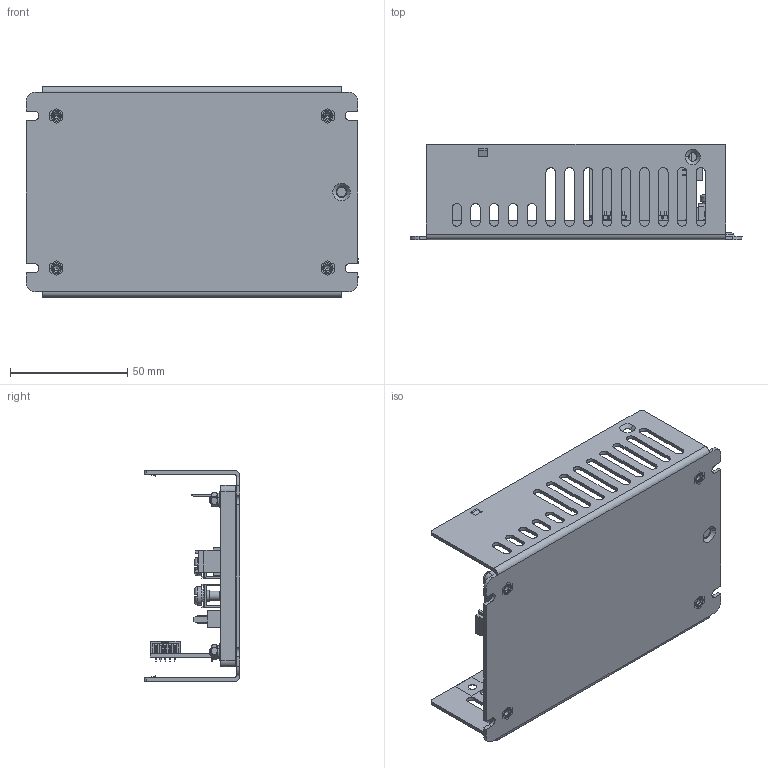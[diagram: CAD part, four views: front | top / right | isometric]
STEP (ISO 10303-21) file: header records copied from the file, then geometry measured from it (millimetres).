
FILE_DESCRIPTION (( 'STEP AP214' ), '1' );
FILE_NAME ('CUS-400M-xxVx-UXy.STEP', '2020-04-16T06:55:53', ( '' ), ( '' ), 'SwSTEP 2.0', 'SolidWorks 2019', '' );
FILE_SCHEMA (( 'AUTOMOTIVE_DESIGN' ));
Length unit declared in the file: millimetre
Products named in the file (28): 283717; 250237_28421; 23578; 200218; SPLIT WASHERS_20035R; 200268; 250236; 12947; 250223; 250297; FULL NUT_200499; 240204; 22-04-1021; M4 X PH COMBI SEMS SCREW_200020; 220563SMA_SM Removed; 220665SMA_No Surface Mount; CUS-400M-xxVx-UXy; 283448; 220563_No Holes; 250242 slot masking; 220563_Connectors Only; 283447; 220665_No Holes; FLAT WASHERS_32087; 250294 chassis masking; 220665_Connectors Only
Assembly tree (46 placements, depth 5):
  CUS-400M-xxVx-UXy
    220665_Connectors Only
      220665SMA_No Surface Mount
        220665_No Holes
      200218
      23578
      283717
        250223
        M4 X PH COMBI SEMS SCREW_200020
      283717
        250223
        M4 X PH COMBI SEMS SCREW_200020
      220563_Connectors Only
        220563SMA_SM Removed
          220563_No Holes
        12947
        283448
        283447
      200268
      22-04-1021
    240204
    250297
      250297
      250237_28421  x4
      250242 slot masking  x2
      250294 chassis masking  x2
    250236  x4
    FLAT WASHERS_32087  x4
    SPLIT WASHERS_20035R  x4
    FULL NUT_200499  x4
Bounding box: 141.4 x 40.7 x 89.8 mm (x, y, z)
Volume: 65628.8 mm3; surface area: 100688.2 mm2
Topology: 43 solids, 43 shells, 4098 faces, 10660 edges, 6786 vertices
Faces by surface type: plane 3030, cylinder 728, cone 256, torus 70, sphere 8, bspline 6
Entity records: 81266 total; most frequent: CARTESIAN_POINT 13859, ORIENTED_EDGE 11928, DIRECTION 11456, EDGE_CURVE 5964, LINE 4332, VECTOR 4332, VERTEX_POINT 3829, AXIS2_PLACEMENT_3D 3562
